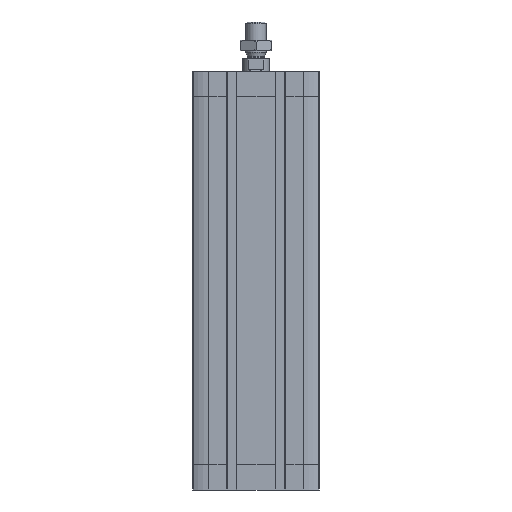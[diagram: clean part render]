
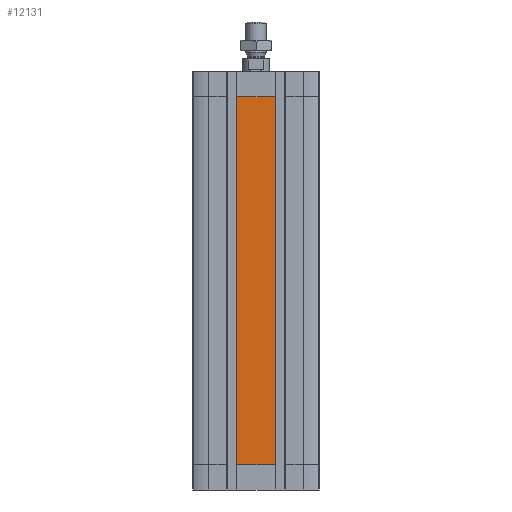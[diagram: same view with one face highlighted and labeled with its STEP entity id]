
A CAD part, front view. The second image highlights one B-rep face of the part: STEP entity #12131.
In plain terms, the highlighted planar face has unit normal (0, -1, 0).
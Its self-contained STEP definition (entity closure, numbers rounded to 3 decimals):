
#380 = CARTESIAN_POINT ( 'NONE',  ( 11.4, -37.5, -15. ) ) ;
#1930 = VERTEX_POINT ( 'NONE', #380 ) ;
#2136 = FACE_OUTER_BOUND ( 'NONE', #9604, .T. ) ;
#2947 = VECTOR ( 'NONE', #8407, 1000. ) ;
#2976 = LINE ( 'NONE', #8728, #2947 ) ;
#3136 = DIRECTION ( 'NONE',  ( 1., 0., 0. ) ) ;
#3463 = CARTESIAN_POINT ( 'NONE',  ( -11.4, -37.5, -234. ) ) ;
#4772 = VERTEX_POINT ( 'NONE', #13617 ) ;
#5417 = EDGE_CURVE ( 'NONE', #1930, #9772, #2976, .T. ) ;
#5752 = ORIENTED_EDGE ( 'NONE', *, *, #5417, .T. ) ;
#6874 = LINE ( 'NONE', #14180, #6902 ) ;
#6902 = VECTOR ( 'NONE', #14213, 1000. ) ;
#6956 = CARTESIAN_POINT ( 'NONE',  ( 11.4, -37.5, -234. ) ) ;
#6969 = DIRECTION ( 'NONE',  ( 0., 0., 1. ) ) ;
#7103 = CARTESIAN_POINT ( 'NONE',  ( 11.4, -37.5, -234. ) ) ;
#7809 = ORIENTED_EDGE ( 'NONE', *, *, #8961, .T. ) ;
#7930 = VECTOR ( 'NONE', #6969, 1000. ) ;
#8016 = DIRECTION ( 'NONE',  ( 0., 0., -1. ) ) ;
#8066 = DIRECTION ( 'NONE',  ( 0., -1., 0. ) ) ;
#8110 = LINE ( 'NONE', #7103, #7930 ) ;
#8270 = CARTESIAN_POINT ( 'NONE',  ( -11.4, -37.5, -234. ) ) ;
#8322 = PLANE ( 'NONE',  #16099 ) ;
#8407 = DIRECTION ( 'NONE',  ( -1., 0., 0. ) ) ;
#8728 = CARTESIAN_POINT ( 'NONE',  ( 0., -37.5, -15. ) ) ;
#8804 = ORIENTED_EDGE ( 'NONE', *, *, #9915, .T. ) ;
#8961 = EDGE_CURVE ( 'NONE', #4772, #15439, #9116, .T. ) ;
#9101 = VECTOR ( 'NONE', #3136, 1000. ) ;
#9116 = LINE ( 'NONE', #3463, #9101 ) ;
#9507 = EDGE_CURVE ( 'NONE', #15439, #1930, #8110, .T. ) ;
#9604 = EDGE_LOOP ( 'NONE', ( #7809, #15768, #5752, #8804 ) ) ;
#9772 = VERTEX_POINT ( 'NONE', #15884 ) ;
#9915 = EDGE_CURVE ( 'NONE', #9772, #4772, #6874, .T. ) ;
#12131 = ADVANCED_FACE ( 'NONE', ( #2136 ), #8322, .T. ) ;
#13617 = CARTESIAN_POINT ( 'NONE',  ( -11.4, -37.5, -234. ) ) ;
#14180 = CARTESIAN_POINT ( 'NONE',  ( -11.4, -37.5, -234. ) ) ;
#14213 = DIRECTION ( 'NONE',  ( 0., 0., -1. ) ) ;
#15439 = VERTEX_POINT ( 'NONE', #6956 ) ;
#15768 = ORIENTED_EDGE ( 'NONE', *, *, #9507, .T. ) ;
#15884 = CARTESIAN_POINT ( 'NONE',  ( -11.4, -37.5, -15. ) ) ;
#16099 = AXIS2_PLACEMENT_3D ( 'NONE', #8270, #8066, #8016 ) ;
